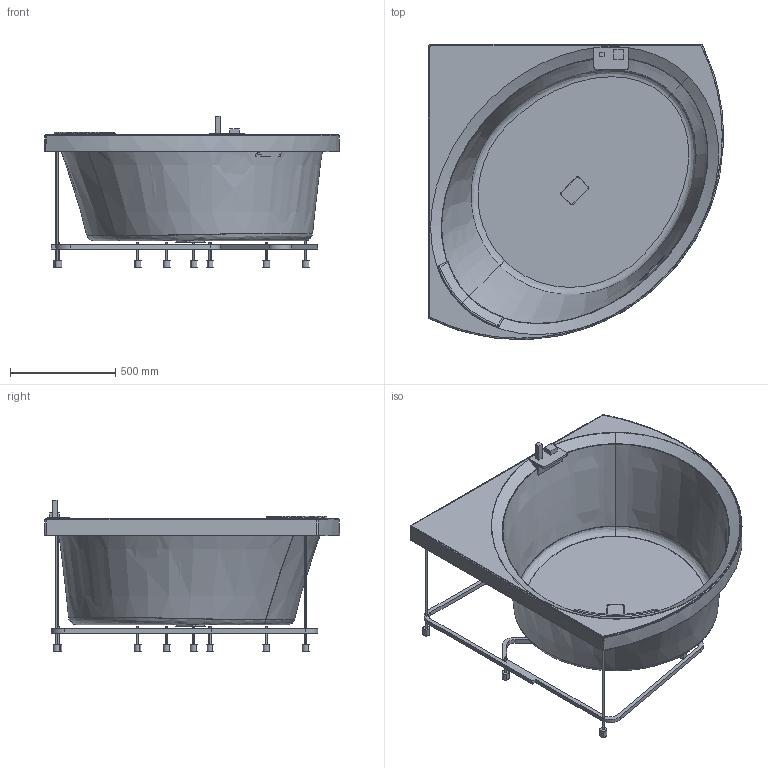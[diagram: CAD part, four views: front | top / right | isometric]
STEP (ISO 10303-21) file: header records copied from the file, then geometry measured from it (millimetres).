
FILE_DESCRIPTION(('STEP AP203'),'2;1');
FILE_NAME('DIV21401402-A0K.stp','2016-02-24T17:37:53',(''),(''),'2014.1.117','THINKDESIGN','');
FILE_SCHEMA(('CONFIG_CONTROL_DESIGN'));
Length unit declared in the file: millimetre
Bounding box: 1399.06 x 1399.06 x 716.4 mm (x, y, z)
Volume: 14399247.9 mm3; surface area: 7797931.1 mm2
Topology: 6 solids, 6 shells, 267 faces, 618 edges, 390 vertices
Faces by surface type: plane 109, cylinder 99, bspline 59
Entity records: 15154 total; most frequent: CARTESIAN_POINT 9237, ORIENTED_EDGE 1220, DIRECTION 1128, EDGE_CURVE 610, AXIS2_PLACEMENT_3D 414, VERTEX_POINT 390, EDGE_LOOP 306, VECTOR 300
